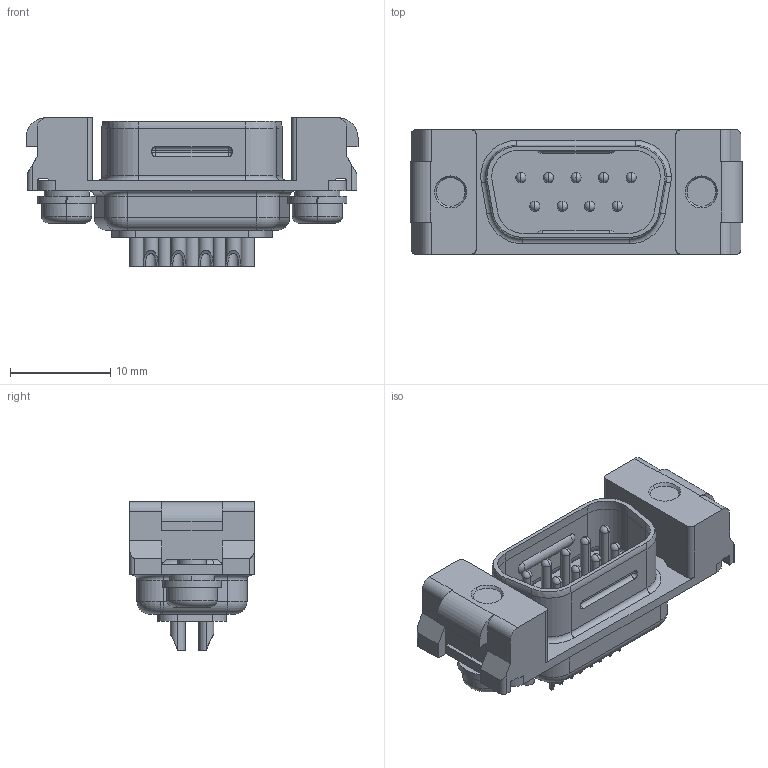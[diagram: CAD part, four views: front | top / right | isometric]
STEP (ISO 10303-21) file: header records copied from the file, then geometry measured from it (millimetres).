
FILE_DESCRIPTION (( 'STEP AP203' ), '1' );
FILE_NAME ('17JE-23090-02(D2C).STEP', '2021-07-29T08:13:03', ( '' ), ( '' ), 'SwSTEP 2.0', 'SolidWorks 2018', '' );
FILE_SCHEMA (( 'CONFIG_CONTROL_DESIGN' ));
Length unit declared in the file: millimetre
Products named in the file (1): 17JE-23090-02(D2C)
Bounding box: 33.09 x 12.4 x 14.8 mm (x, y, z)
Volume: 2300.2 mm3; surface area: 3541 mm2
Topology: 1 solids, 1 shells, 483 faces, 1264 edges, 772 vertices
Faces by surface type: cylinder 212, plane 155, torus 74, cone 26, sphere 12, bspline 4
Entity records: 15718 total; most frequent: CARTESIAN_POINT 3598, DIRECTION 2717, ORIENTED_EDGE 2460, EDGE_CURVE 1230, AXIS2_PLACEMENT_3D 1069, VERTEX_POINT 768, CIRCLE 589, VECTOR 579
